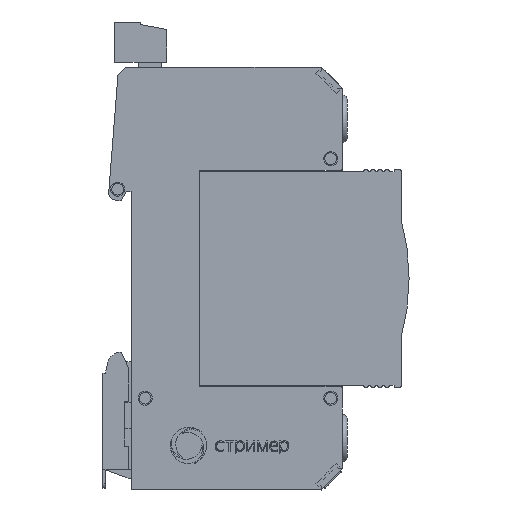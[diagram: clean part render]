
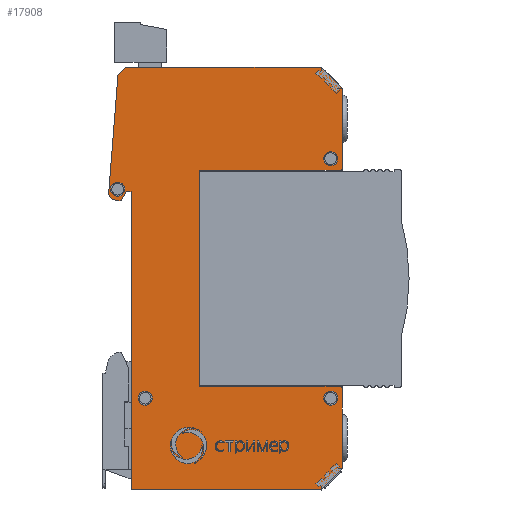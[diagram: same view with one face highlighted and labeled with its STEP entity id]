
A CAD part, front view. The second image highlights one B-rep face of the part: STEP entity #17908.
In plain terms, the highlighted planar face has unit normal (0, -1, 0).
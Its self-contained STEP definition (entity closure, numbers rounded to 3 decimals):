
#15836=CARTESIAN_POINT('',(30.,-9.,-23.));
#15837=VERTEX_POINT('',#15836);
#15875=CARTESIAN_POINT('',(0.,-9.,-23.));
#15876=VERTEX_POINT('',#15875);
#15883=CARTESIAN_POINT('',(30.,-9.,-23.));
#15884=DIRECTION('',(-1.,0.,0.));
#15885=VECTOR('',#15884,30.);
#15886=LINE('',#15883,#15885);
#15887=EDGE_CURVE('',#15837,#15876,#15886,.T.);
#15931=CARTESIAN_POINT('',(30.,-9.,23.));
#15932=VERTEX_POINT('',#15931);
#15939=CARTESIAN_POINT('',(0.,-9.,23.));
#15940=VERTEX_POINT('',#15939);
#15941=CARTESIAN_POINT('',(0.,-9.,23.));
#15942=DIRECTION('',(1.,0.,0.));
#15943=VECTOR('',#15942,30.);
#15944=LINE('',#15941,#15943);
#15945=EDGE_CURVE('',#15940,#15932,#15944,.T.);
#16070=CARTESIAN_POINT('',(-14.5,-9.,-45.));
#16071=VERTEX_POINT('',#16070);
#16072=CARTESIAN_POINT('',(26.,-9.,-45.));
#16073=VERTEX_POINT('',#16072);
#16074=CARTESIAN_POINT('',(-14.5,-9.,-45.));
#16075=DIRECTION('',(1.,0.,-0.));
#16076=VECTOR('',#16075,40.5);
#16077=LINE('',#16074,#16076);
#16078=EDGE_CURVE('',#16071,#16073,#16077,.T.);
#16740=CARTESIAN_POINT('',(-14.5,-9.,18.5));
#16741=VERTEX_POINT('',#16740);
#16742=CARTESIAN_POINT('',(-14.5,-9.,18.5));
#16743=DIRECTION('',(0.,0.,-1.));
#16744=VECTOR('',#16743,63.5);
#16745=LINE('',#16742,#16744);
#16746=EDGE_CURVE('',#16741,#16071,#16745,.T.);
#16941=CARTESIAN_POINT('',(-15.5,-9.,45.));
#16942=VERTEX_POINT('',#16941);
#16943=CARTESIAN_POINT('',(-17.29,-9.,43.498));
#16944=VERTEX_POINT('',#16943);
#16945=CARTESIAN_POINT('',(-15.5,-9.,45.));
#16946=DIRECTION('',(-0.766,0.,-0.643));
#16947=VECTOR('',#16946,2.337);
#16948=LINE('',#16945,#16947);
#16949=EDGE_CURVE('',#16942,#16944,#16948,.T.);
#16981=CARTESIAN_POINT('',(-19.273,-9.,18.306));
#16982=VERTEX_POINT('',#16981);
#16983=CARTESIAN_POINT('',(-17.29,-9.,43.498));
#16984=DIRECTION('',(-0.078,0.,-0.997));
#16985=VECTOR('',#16984,25.27);
#16986=LINE('',#16983,#16985);
#16987=EDGE_CURVE('',#16944,#16982,#16986,.T.);
#17012=CARTESIAN_POINT('',(-17.999,-9.,16.704));
#17013=VERTEX_POINT('',#17012);
#17014=CARTESIAN_POINT('',(-17.777,-9.,18.188));
#17015=DIRECTION('',(0.,-1.,0.));
#17016=DIRECTION('',(0.,0.,1.));
#17017=AXIS2_PLACEMENT_3D('',#17014,#17015,#17016);
#17018=CIRCLE('',#17017,1.5);
#17019=EDGE_CURVE('',#16982,#17013,#17018,.T.);
#17045=CARTESIAN_POINT('',(-16.632,-9.,16.5));
#17046=VERTEX_POINT('',#17045);
#17047=CARTESIAN_POINT('',(-17.999,-9.,16.704));
#17048=DIRECTION('',(0.989,0.,-0.148));
#17049=VECTOR('',#17048,1.383);
#17050=LINE('',#17047,#17049);
#17051=EDGE_CURVE('',#17013,#17046,#17050,.T.);
#17076=CARTESIAN_POINT('',(-15.5,-9.,18.5));
#17077=VERTEX_POINT('',#17076);
#17078=CARTESIAN_POINT('',(-16.632,-9.,16.5));
#17079=DIRECTION('',(0.492,0.,0.87));
#17080=VECTOR('',#17079,2.298);
#17081=LINE('',#17078,#17080);
#17082=EDGE_CURVE('',#17046,#17077,#17081,.T.);
#17107=CARTESIAN_POINT('',(-15.5,-9.,18.5));
#17108=DIRECTION('',(1.,0.,0.));
#17109=VECTOR('',#17108,1.);
#17110=LINE('',#17107,#17109);
#17111=EDGE_CURVE('',#17077,#16741,#17110,.T.);
#17129=CARTESIAN_POINT('',(30.5,-9.,-40.5));
#17130=VERTEX_POINT('',#17129);
#17131=CARTESIAN_POINT('',(26.,-9.,-45.));
#17132=DIRECTION('',(0.707,0.,0.707));
#17133=VECTOR('',#17132,6.364);
#17134=LINE('',#17131,#17133);
#17135=EDGE_CURVE('',#16073,#17130,#17134,.T.);
#17184=CARTESIAN_POINT('',(30.5,-9.,-23.5));
#17185=VERTEX_POINT('',#17184);
#17192=CARTESIAN_POINT('',(30.5,-9.,-40.5));
#17193=DIRECTION('',(0.,0.,1.));
#17194=VECTOR('',#17193,17.);
#17195=LINE('',#17192,#17194);
#17196=EDGE_CURVE('',#17130,#17185,#17195,.T.);
#17242=CARTESIAN_POINT('',(30.,-9.,-23.5));
#17243=DIRECTION('',(0.,-1.,0.));
#17244=DIRECTION('',(0.,0.,1.));
#17245=AXIS2_PLACEMENT_3D('',#17242,#17243,#17244);
#17246=CIRCLE('',#17245,0.5);
#17247=EDGE_CURVE('',#17185,#15837,#17246,.T.);
#17258=CARTESIAN_POINT('',(0.,-9.,-23.));
#17259=DIRECTION('',(0.,0.,1.));
#17260=VECTOR('',#17259,46.);
#17261=LINE('',#17258,#17260);
#17262=EDGE_CURVE('',#15876,#15940,#17261,.T.);
#17289=CARTESIAN_POINT('',(30.5,-9.,23.5));
#17290=VERTEX_POINT('',#17289);
#17297=CARTESIAN_POINT('',(30.,-9.,23.5));
#17298=DIRECTION('',(0.,-1.,0.));
#17299=DIRECTION('',(0.,0.,1.));
#17300=AXIS2_PLACEMENT_3D('',#17297,#17298,#17299);
#17301=CIRCLE('',#17300,0.5);
#17302=EDGE_CURVE('',#15932,#17290,#17301,.T.);
#17330=CARTESIAN_POINT('',(30.5,-9.,40.5));
#17331=VERTEX_POINT('',#17330);
#17338=CARTESIAN_POINT('',(30.5,-9.,23.5));
#17339=DIRECTION('',(0.,0.,1.));
#17340=VECTOR('',#17339,17.);
#17341=LINE('',#17338,#17340);
#17342=EDGE_CURVE('',#17290,#17331,#17341,.T.);
#17387=CARTESIAN_POINT('',(26.,-9.,45.));
#17388=VERTEX_POINT('',#17387);
#17389=CARTESIAN_POINT('',(30.5,-9.,40.5));
#17390=DIRECTION('',(-0.707,0.,0.707));
#17391=VECTOR('',#17390,6.364);
#17392=LINE('',#17389,#17391);
#17393=EDGE_CURVE('',#17331,#17388,#17392,.T.);
#17418=CARTESIAN_POINT('',(-17.38,-9.,17.5));
#17419=VERTEX_POINT('',#17418);
#17428=CARTESIAN_POINT('',(-18.88,-9.,19.));
#17429=VERTEX_POINT('',#17428);
#17430=CARTESIAN_POINT('',(-17.38,-9.,19.));
#17431=DIRECTION('',(0.,-1.,0.));
#17432=DIRECTION('',(-1.,0.,0.));
#17433=AXIS2_PLACEMENT_3D('',#17430,#17431,#17432);
#17434=CIRCLE('',#17433,1.5);
#17435=EDGE_CURVE('',#17419,#17429,#17434,.T.);
#17460=CARTESIAN_POINT('',(28.,-9.,24.));
#17461=VERTEX_POINT('',#17460);
#17470=CARTESIAN_POINT('',(26.5,-9.,25.5));
#17471=VERTEX_POINT('',#17470);
#17472=CARTESIAN_POINT('',(28.,-9.,25.5));
#17473=DIRECTION('',(0.,-1.,0.));
#17474=DIRECTION('',(-1.,0.,0.));
#17475=AXIS2_PLACEMENT_3D('',#17472,#17473,#17474);
#17476=CIRCLE('',#17475,1.5);
#17477=EDGE_CURVE('',#17461,#17471,#17476,.T.);
#17538=CARTESIAN_POINT('',(-11.5,-9.,-27.));
#17539=VERTEX_POINT('',#17538);
#17548=CARTESIAN_POINT('',(-13.,-9.,-25.5));
#17549=VERTEX_POINT('',#17548);
#17550=CARTESIAN_POINT('',(-11.5,-9.,-25.5));
#17551=DIRECTION('',(0.,-1.,0.));
#17552=DIRECTION('',(-1.,0.,0.));
#17553=AXIS2_PLACEMENT_3D('',#17550,#17551,#17552);
#17554=CIRCLE('',#17553,1.5);
#17555=EDGE_CURVE('',#17539,#17549,#17554,.T.);
#17580=CARTESIAN_POINT('',(28.,-9.,-27.));
#17581=VERTEX_POINT('',#17580);
#17590=CARTESIAN_POINT('',(26.5,-9.,-25.5));
#17591=VERTEX_POINT('',#17590);
#17592=CARTESIAN_POINT('',(28.,-9.,-25.5));
#17593=DIRECTION('',(0.,-1.,0.));
#17594=DIRECTION('',(-1.,0.,0.));
#17595=AXIS2_PLACEMENT_3D('',#17592,#17593,#17594);
#17596=CIRCLE('',#17595,1.5);
#17597=EDGE_CURVE('',#17581,#17591,#17596,.T.);
#17760=CARTESIAN_POINT('',(26.,-9.,45.));
#17761=DIRECTION('',(-1.,0.,0.));
#17762=VECTOR('',#17761,41.5);
#17763=LINE('',#17760,#17762);
#17764=EDGE_CURVE('',#17388,#16942,#17763,.T.);
#17843=CARTESIAN_POINT('',(0.,-9.,0.));
#17844=DIRECTION('',(0.,-1.,0.));
#17845=DIRECTION('',(0.,0.,1.));
#17846=AXIS2_PLACEMENT_3D('',#17843,#17844,#17845);
#17847=PLANE('',#17846);
#17848=ORIENTED_EDGE('',*,*,#17597,.F.);
#17849=CARTESIAN_POINT('',(28.,-9.,-25.5));
#17850=DIRECTION('',(0.,-1.,0.));
#17851=DIRECTION('',(-1.,0.,0.));
#17852=AXIS2_PLACEMENT_3D('',#17849,#17850,#17851);
#17853=CIRCLE('',#17852,1.5);
#17854=EDGE_CURVE('',#17591,#17581,#17853,.T.);
#17855=ORIENTED_EDGE('',*,*,#17854,.F.);
#17856=EDGE_LOOP('',(#17848,#17855));
#17857=FACE_BOUND('',#17856,.T.);
#17858=ORIENTED_EDGE('',*,*,#17555,.F.);
#17859=CARTESIAN_POINT('',(-11.5,-9.,-25.5));
#17860=DIRECTION('',(0.,-1.,0.));
#17861=DIRECTION('',(-1.,0.,0.));
#17862=AXIS2_PLACEMENT_3D('',#17859,#17860,#17861);
#17863=CIRCLE('',#17862,1.5);
#17864=EDGE_CURVE('',#17549,#17539,#17863,.T.);
#17865=ORIENTED_EDGE('',*,*,#17864,.F.);
#17866=EDGE_LOOP('',(#17858,#17865));
#17867=FACE_BOUND('',#17866,.T.);
#17868=ORIENTED_EDGE('',*,*,#17477,.F.);
#17869=CARTESIAN_POINT('',(28.,-9.,25.5));
#17870=DIRECTION('',(0.,-1.,0.));
#17871=DIRECTION('',(-1.,0.,0.));
#17872=AXIS2_PLACEMENT_3D('',#17869,#17870,#17871);
#17873=CIRCLE('',#17872,1.5);
#17874=EDGE_CURVE('',#17471,#17461,#17873,.T.);
#17875=ORIENTED_EDGE('',*,*,#17874,.F.);
#17876=EDGE_LOOP('',(#17868,#17875));
#17877=FACE_BOUND('',#17876,.T.);
#17878=ORIENTED_EDGE('',*,*,#17435,.F.);
#17879=CARTESIAN_POINT('',(-17.38,-9.,19.));
#17880=DIRECTION('',(0.,-1.,0.));
#17881=DIRECTION('',(-1.,0.,0.));
#17882=AXIS2_PLACEMENT_3D('',#17879,#17880,#17881);
#17883=CIRCLE('',#17882,1.5);
#17884=EDGE_CURVE('',#17429,#17419,#17883,.T.);
#17885=ORIENTED_EDGE('',*,*,#17884,.F.);
#17886=EDGE_LOOP('',(#17878,#17885));
#17887=FACE_BOUND('',#17886,.T.);
#17888=ORIENTED_EDGE('',*,*,#16949,.T.);
#17889=ORIENTED_EDGE('',*,*,#16987,.T.);
#17890=ORIENTED_EDGE('',*,*,#17019,.T.);
#17891=ORIENTED_EDGE('',*,*,#17051,.T.);
#17892=ORIENTED_EDGE('',*,*,#17082,.T.);
#17893=ORIENTED_EDGE('',*,*,#17111,.T.);
#17894=ORIENTED_EDGE('',*,*,#16746,.T.);
#17895=ORIENTED_EDGE('',*,*,#16078,.T.);
#17896=ORIENTED_EDGE('',*,*,#17135,.T.);
#17897=ORIENTED_EDGE('',*,*,#17196,.T.);
#17898=ORIENTED_EDGE('',*,*,#17247,.T.);
#17899=ORIENTED_EDGE('',*,*,#15887,.T.);
#17900=ORIENTED_EDGE('',*,*,#17262,.T.);
#17901=ORIENTED_EDGE('',*,*,#15945,.T.);
#17902=ORIENTED_EDGE('',*,*,#17302,.T.);
#17903=ORIENTED_EDGE('',*,*,#17342,.T.);
#17904=ORIENTED_EDGE('',*,*,#17393,.T.);
#17905=ORIENTED_EDGE('',*,*,#17764,.T.);
#17906=EDGE_LOOP('',(#17888,#17889,#17890,#17891,#17892,#17893,#17894,#17895,#17896,#17897,#17898,#17899,#17900,#17901,#17902,#17903,#17904,#17905));
#17907=FACE_BOUND('',#17906,.T.);
#17908=ADVANCED_FACE('',(#17857,#17867,#17877,#17887,#17907),#17847,.T.);
